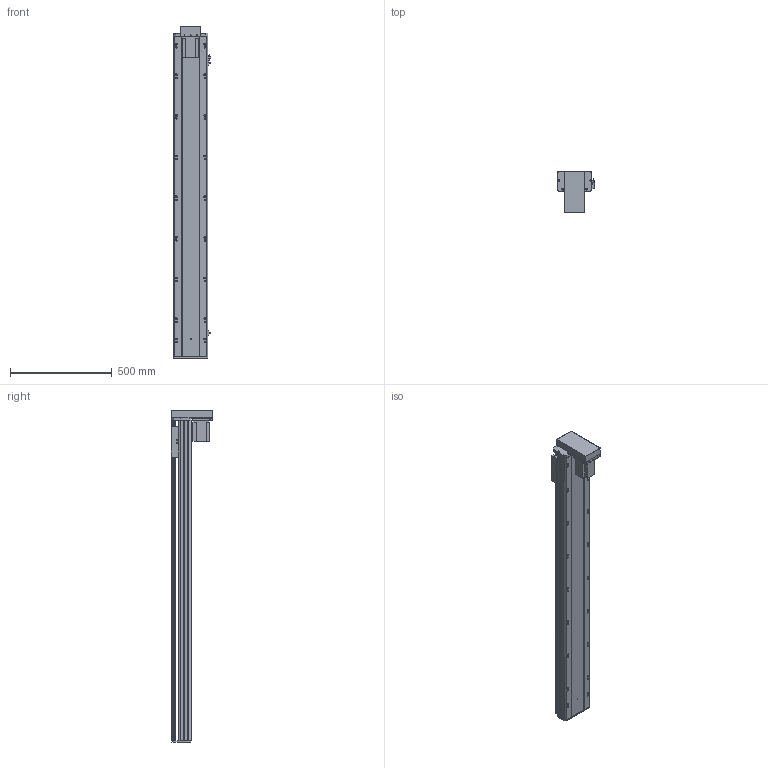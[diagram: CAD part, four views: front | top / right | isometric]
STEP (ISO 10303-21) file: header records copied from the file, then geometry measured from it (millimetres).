
FILE_DESCRIPTION (( 'STEP AP203' ), '1' );
FILE_NAME ('Y170-D10-S1350-BM-P750W.STEP', '2020-01-22T03:27:59', ( '微软用户' ), ( '微软中国' ), 'SwSTEP 2.0', 'SolidWorks 2017', '' );
FILE_SCHEMA (( 'CONFIG_CONTROL_DESIGN' ));
Length unit declared in the file: millimetre
Products named in the file (12): Y170耜裔--準---; Y100-135俋离換覜ん; 170--掛极-BR; Y170-D10-S1350-BM-P750W; 侂狟750W; EGH20賑輸_蕼偞; Y雄赽釱-耜蚾; Y170-陔遴奻裔-BR; Y170-BM--P750W楊擘啣; 170-BM耜蚾蟀諉啣; -BM俋袗; YD-Y100-135-新外置传感挡片(通用）
Assembly tree (14 placements, depth 2):
  Y170-D10-S1350-BM-P750W
    Y170耜裔--準---
    170--掛极-BR
    侂狟750W
    EGH20賑輸_蕼偞  x2
    Y雄赽釱-耜蚾
    Y170-陔遴奻裔-BR
    170-BM耜蚾蟀諉啣
    Y170-BM--P750W楊擘啣
    -BM俋袗
    YD-Y100-135-新外置传感挡片(通用）
    Y100-135俋离換覜ん  x3
Bounding box: 183.5 x 203.5 x 1633.5 mm (x, y, z)
Volume: 7357559.6 mm3; surface area: 2575440.5 mm2
Topology: 14 solids, 14 shells, 942 faces, 2700 edges, 1782 vertices
Faces by surface type: cylinder 490, plane 436, cone 16
Entity records: 30346 total; most frequent: CARTESIAN_POINT 5527, DIRECTION 4984, ORIENTED_EDGE 4896, EDGE_CURVE 2448, AXIS2_PLACEMENT_3D 1779, VERTEX_POINT 1626, LINE 1426, VECTOR 1426
